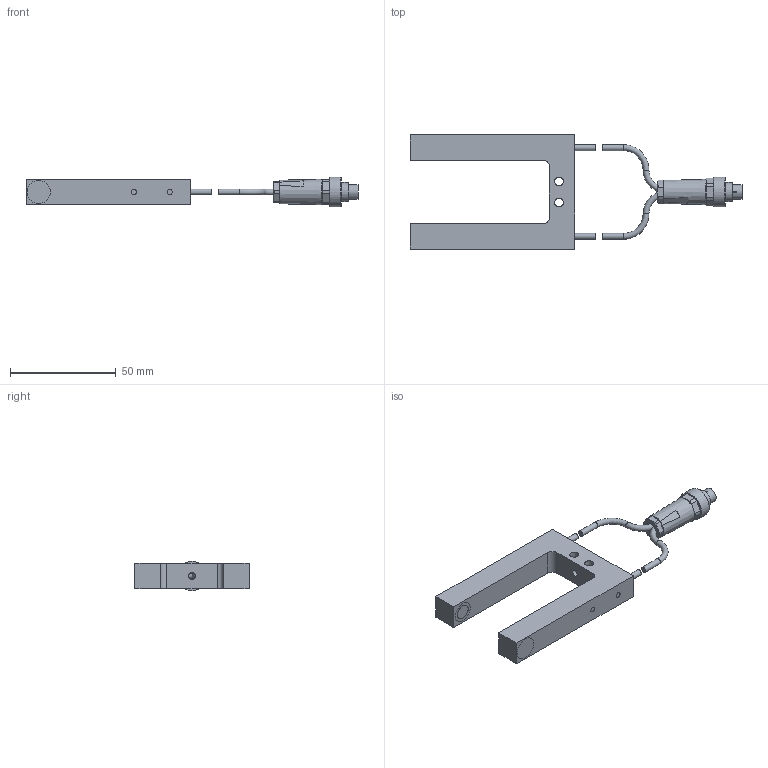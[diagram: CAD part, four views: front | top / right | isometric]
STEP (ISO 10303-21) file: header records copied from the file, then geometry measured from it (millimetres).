
FILE_DESCRIPTION(/* description */ (''),/* implementation_level */ '2;1');
FILE_NAME(/* name */ 'H:\ZVW\Inventor\E-Mail-Zeichnungen\STEP\HOMEPAGE\A-LAS-F12-...-30_60-C_0720_00.stp',/* time_stamp */ '2014-08-18T15:08:12+02:00',/* author */ ('TK-01'),/* organization */ (''),/* preprocessor_version */ 'ST-DEVELOPER v15.2',/* originating_system */ 'Autodesk Inventor 2014',/* authorisation */ '');
FILE_SCHEMA (('AUTOMOTIVE_DESIGN { 1 0 10303 214 3 1 1 }'));
Length unit declared in the file: millimetre
Products named in the file (1): Bauteil10
Bounding box: 157.1 x 54 x 14 mm (x, y, z)
Volume: 109919.3 mm3; surface area: 41938.3 mm2
Topology: 8 solids, 12 shells, 160 faces, 352 edges, 232 vertices
Faces by surface type: plane 72, cylinder 60, cone 11, sphere 9, torus 6, bspline 2
Full cylindrical faces by diameter (mm): 0.5 x7, 2.5 x8, 2.8 x4, 2.9 x2, 3.2 x1, 4.1 x2, 5.5 x1, 6 x1, 6.8 x1, 7.1 x1, 7.15 x2, 7.5 x1, 8 x1, 9 x2, 10 x2, 14 x1
Entity records: 4370 total; most frequent: CARTESIAN_POINT 933, DIRECTION 708, ORIENTED_EDGE 544, AXIS2_PLACEMENT_3D 310, EDGE_CURVE 268, EDGE_LOOP 250, VERTEX_POINT 204, ADVANCED_FACE 160
